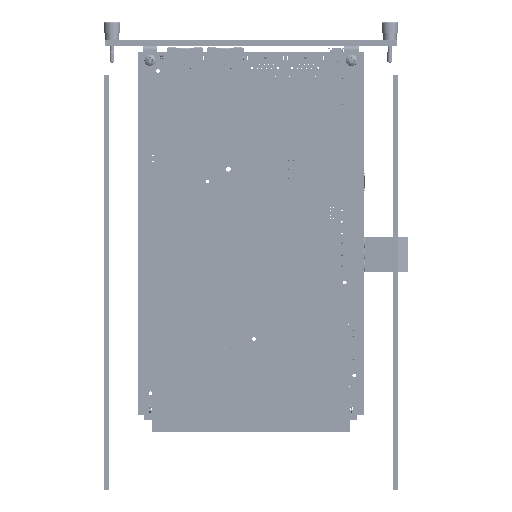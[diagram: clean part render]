
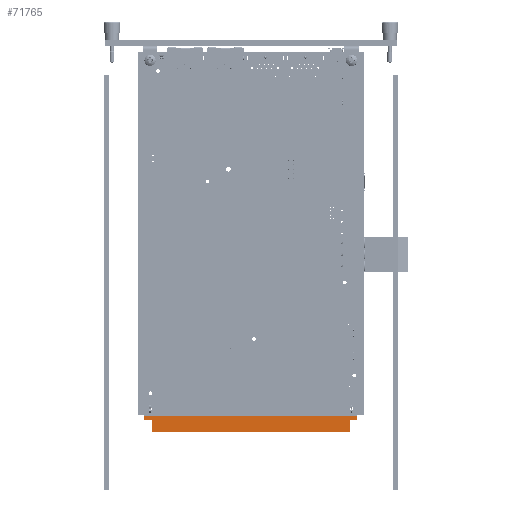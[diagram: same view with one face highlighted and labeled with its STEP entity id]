
A CAD part, left-side view. The second image highlights one B-rep face of the part: STEP entity #71765.
In plain terms, the highlighted planar face has unit normal (-1, 0, 0).
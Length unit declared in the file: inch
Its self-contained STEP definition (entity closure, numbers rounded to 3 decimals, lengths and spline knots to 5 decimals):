
#22665 = VERTEX_POINT ( 'NONE', #511585 ) ;
#37065 = ORIENTED_EDGE ( 'NONE', *, *, #562351, .T. ) ;
#57038 = EDGE_CURVE ( 'NONE', #22665, #421068, #175831, .T. ) ;
#57392 = EDGE_CURVE ( 'NONE', #613542, #445753, #361278, .T. ) ;
#63342 = VECTOR ( 'NONE', #320880, 39.37008 ) ;
#71765 = ADVANCED_FACE ( 'NONE', ( #215275 ), #436845, .T. ) ;
#76329 = VECTOR ( 'NONE', #486797, 39.37008 ) ;
#87311 = VECTOR ( 'NONE', #466244, 39.37008 ) ;
#87648 = LINE ( 'NONE', #287513, #88507 ) ;
#88507 = VECTOR ( 'NONE', #431753, 39.37008 ) ;
#105707 = DIRECTION ( 'NONE',  ( 0., 0., 1. ) ) ;
#109864 = EDGE_CURVE ( 'NONE', #146302, #546723, #445485, .T. ) ;
#122422 = VECTOR ( 'NONE', #457907, 39.37008 ) ;
#142103 = ORIENTED_EDGE ( 'NONE', *, *, #57392, .F. ) ;
#146302 = VERTEX_POINT ( 'NONE', #534931 ) ;
#151131 = AXIS2_PLACEMENT_3D ( 'NONE', #548060, #397387, #191002 ) ;
#154875 = CARTESIAN_POINT ( 'NONE',  ( -0.06496, 0.41732, 0. ) ) ;
#162203 = CARTESIAN_POINT ( 'NONE',  ( -0.06496, 0.22244, -0.12795 ) ) ;
#175831 = LINE ( 'NONE', #179009, #76329 ) ;
#179009 = CARTESIAN_POINT ( 'NONE',  ( -0.06496, 0.13976, -0.12795 ) ) ;
#191002 = DIRECTION ( 'NONE',  ( 0., 1., 0. ) ) ;
#192167 = ORIENTED_EDGE ( 'NONE', *, *, #282863, .T. ) ;
#193631 = EDGE_LOOP ( 'NONE', ( #586370, #192167, #282791, #37065, #142103, #235917, #205059, #251914 ) ) ;
#197000 = CARTESIAN_POINT ( 'NONE',  ( -0.06496, 0.22244, 3.57283 ) ) ;
#205059 = ORIENTED_EDGE ( 'NONE', *, *, #109864, .T. ) ;
#213357 = VECTOR ( 'NONE', #105707, 39.37008 ) ;
#215275 = FACE_OUTER_BOUND ( 'NONE', #193631, .T. ) ;
#215696 = LINE ( 'NONE', #412322, #471160 ) ;
#235917 = ORIENTED_EDGE ( 'NONE', *, *, #292636, .T. ) ;
#239423 = CARTESIAN_POINT ( 'NONE',  ( -0.06496, 0.13976, 3.57283 ) ) ;
#251914 = ORIENTED_EDGE ( 'NONE', *, *, #352100, .T. ) ;
#263150 = LINE ( 'NONE', #617040, #87311 ) ;
#270969 = LINE ( 'NONE', #618397, #122422 ) ;
#282791 = ORIENTED_EDGE ( 'NONE', *, *, #544241, .T. ) ;
#282863 = EDGE_CURVE ( 'NONE', #421068, #564255, #263150, .T. ) ;
#287513 = CARTESIAN_POINT ( 'NONE',  ( -0.06496, 0.22244, 3.44488 ) ) ;
#290484 = CARTESIAN_POINT ( 'NONE',  ( -0.06496, 0.41732, 3.44488 ) ) ;
#292636 = EDGE_CURVE ( 'NONE', #613542, #146302, #270969, .T. ) ;
#298043 = DIRECTION ( 'NONE',  ( 0., 0., -1. ) ) ;
#320880 = DIRECTION ( 'NONE',  ( 0., 0., -1. ) ) ;
#330522 = LINE ( 'NONE', #628546, #63342 ) ;
#352100 = EDGE_CURVE ( 'NONE', #546723, #22665, #215696, .T. ) ;
#361278 = LINE ( 'NONE', #154875, #213357 ) ;
#396303 = VECTOR ( 'NONE', #298043, 39.37008 ) ;
#397387 = DIRECTION ( 'NONE',  ( -1., 0., 0. ) ) ;
#412322 = CARTESIAN_POINT ( 'NONE',  ( -0.06496, 0.22244, -0.12795 ) ) ;
#421068 = VERTEX_POINT ( 'NONE', #239423 ) ;
#431753 = DIRECTION ( 'NONE',  ( 0., 1., 0. ) ) ;
#436845 = PLANE ( 'NONE',  #151131 ) ;
#445485 = LINE ( 'NONE', #645409, #396303 ) ;
#445753 = VERTEX_POINT ( 'NONE', #290484 ) ;
#457907 = DIRECTION ( 'NONE',  ( 0., -1., 0. ) ) ;
#466244 = DIRECTION ( 'NONE',  ( 0., 1., 0. ) ) ;
#471160 = VECTOR ( 'NONE', #612218, 39.37008 ) ;
#478394 = CARTESIAN_POINT ( 'NONE',  ( -0.06496, 0.22244, 3.44488 ) ) ;
#486797 = DIRECTION ( 'NONE',  ( 0., 0., 1. ) ) ;
#511585 = CARTESIAN_POINT ( 'NONE',  ( -0.06496, 0.13976, -0.12795 ) ) ;
#534931 = CARTESIAN_POINT ( 'NONE',  ( -0.06496, 0.22244, 0. ) ) ;
#544241 = EDGE_CURVE ( 'NONE', #564255, #578772, #330522, .T. ) ;
#546723 = VERTEX_POINT ( 'NONE', #162203 ) ;
#548060 = CARTESIAN_POINT ( 'NONE',  ( -0.06496, 0.42126, -0.13829 ) ) ;
#562351 = EDGE_CURVE ( 'NONE', #578772, #445753, #87648, .T. ) ;
#564255 = VERTEX_POINT ( 'NONE', #197000 ) ;
#578772 = VERTEX_POINT ( 'NONE', #478394 ) ;
#586370 = ORIENTED_EDGE ( 'NONE', *, *, #57038, .T. ) ;
#612218 = DIRECTION ( 'NONE',  ( 0., -1., 0. ) ) ;
#613542 = VERTEX_POINT ( 'NONE', #638011 ) ;
#617040 = CARTESIAN_POINT ( 'NONE',  ( -0.06496, 0.13976, 3.57283 ) ) ;
#618397 = CARTESIAN_POINT ( 'NONE',  ( -0.06496, 0.41732, 0. ) ) ;
#628546 = CARTESIAN_POINT ( 'NONE',  ( -0.06496, 0.22244, 3.57283 ) ) ;
#638011 = CARTESIAN_POINT ( 'NONE',  ( -0.06496, 0.41732, 0. ) ) ;
#645409 = CARTESIAN_POINT ( 'NONE',  ( -0.06496, 0.22244, 0. ) ) ;
